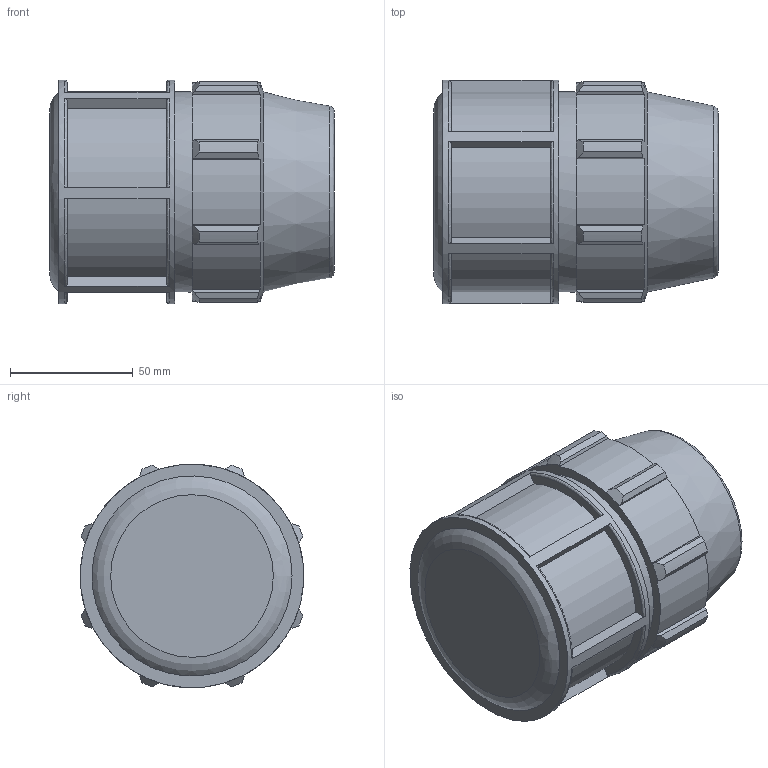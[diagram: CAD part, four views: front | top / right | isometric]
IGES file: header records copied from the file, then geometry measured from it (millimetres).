
Global section: file name: 0712M0150.ipt; native system: Autodesk Inventor 2019; preprocessor: unknown; author: Кирилл,,11,0; organization: 20170224.180708; date: 20210826.124726; units: inch
Bounding box: 116.08 x 91.12 x 91.21 mm (x, y, z)
Volume: 429360.3 mm3; surface area: 65397.3 mm2
Topology: 1 solids, 1 shells, 115 faces, 313 edges, 210 vertices
Faces by surface type: plane 63, cylinder 24, revolution 18, cone 10
Full cylindrical faces by diameter (mm): 81.61 x1, 91.211 x1
